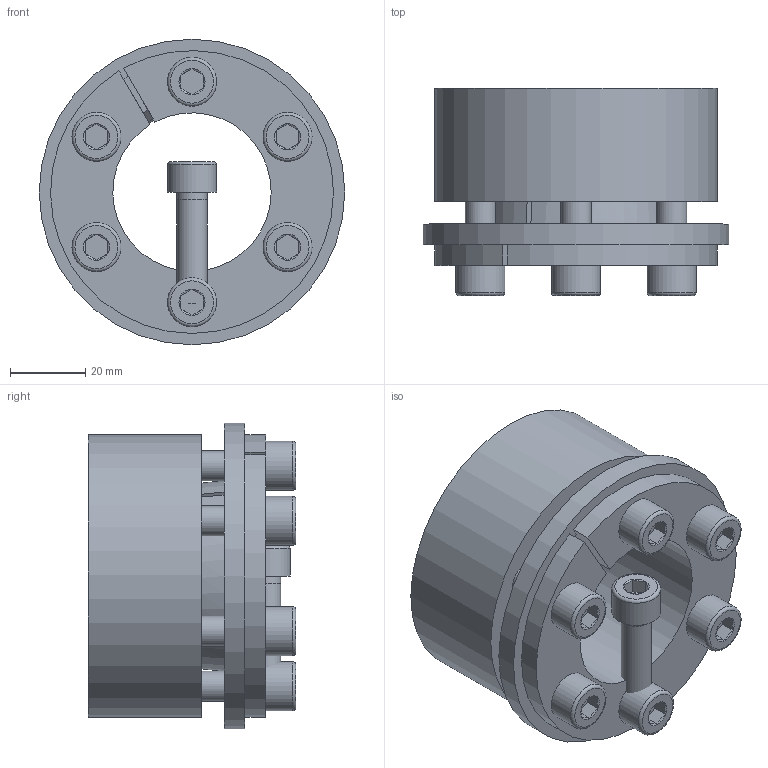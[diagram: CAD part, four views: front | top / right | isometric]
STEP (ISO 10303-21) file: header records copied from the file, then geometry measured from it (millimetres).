
FILE_DESCRIPTION( ( 'Unknown' ), '1' );
FILE_NAME( 'C:/Dokumente und Einstellungen/Sven/Desktop/homepage/cad - homepage/KBS71/KBS 71 - 42 x 75.stp', 'Unknown', ( 'Unknown' ), ( 'Unknown' ), 'XStep 1.0', 'Unknown', ' ' );
FILE_SCHEMA( ( 'automotive_design' ) );
Length unit declared in the file: millimetre
Products named in the file (3): Assem1; KBS 71 - 42 x 75; ISO EN DIN 4762 M8x30
Bounding box: 81 x 55 x 81 mm (x, y, z)
Volume: 252809.7 mm3; surface area: 81399.4 mm2
Topology: 9 solids, 9 shells, 247 faces, 537 edges, 322 vertices
Faces by surface type: plane 116, cylinder 60, cone 57, torus 14
Full cylindrical faces by diameter (mm): 7 x7, 8 x38, 13 x7, 81 x2
Entity records: 2126 total; most frequent: CARTESIAN_POINT 341, DIRECTION 320, ORIENTED_EDGE 252, AXIS2_PLACEMENT_3D 135, EDGE_CURVE 126, EDGE_LOOP 108, VERTEX_POINT 88, FACE_OUTER_BOUND 80
